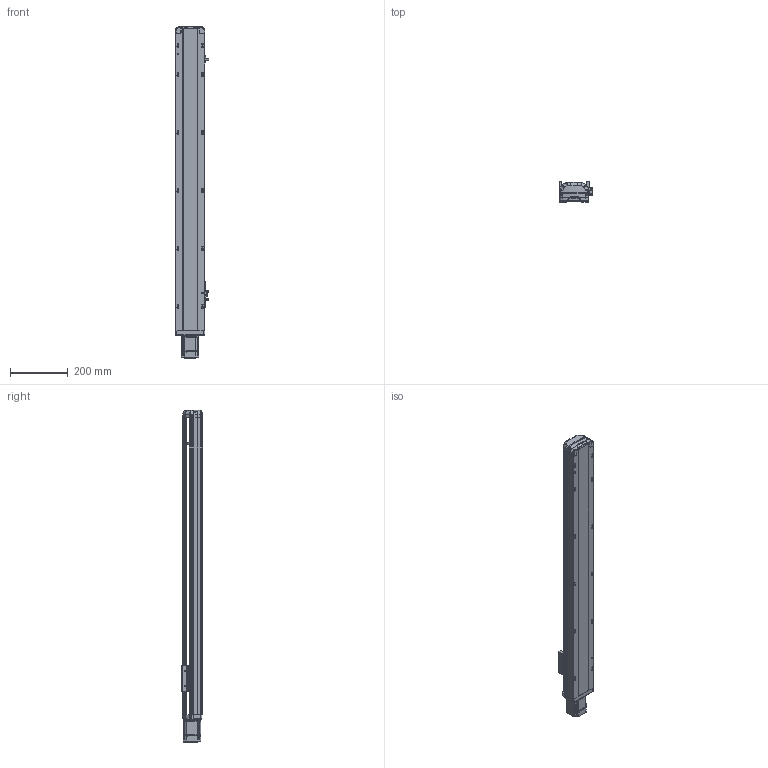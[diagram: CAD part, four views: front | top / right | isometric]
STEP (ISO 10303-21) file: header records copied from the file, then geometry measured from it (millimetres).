
FILE_DESCRIPTION (( 'STEP AP214' ), '1' );
FILE_NAME ('RTH10-XX-800-E-M20-C4.STEP', '2025-10-24T10:47:25', ( '' ), ( '' ), 'SwSTEP 2.0', 'SolidWorks 2018', '' );
FILE_SCHEMA (( 'AUTOMOTIVE_DESIGN' ));
Length unit declared in the file: millimetre
Products named in the file (9): N_RTH12-E-007P-奻裔^RTH10-XX-XX-E-M20-C4ㄗ源最宒ㄘ; N_200W-1^RTH10-XX-XX-E-M20-C4（方程式）; N_RTH13-L-012感应片外置^RTH10-XX-XX-E-M20-C4（方程式）; N_RTH12-E-011P-臏倰第菁釱^RTH10-XX-XX-E-M20-C4ㄗ源最宒ㄘ; N_RTH12-GY-001P^RTH10-XX-XX-E-M20-C4（方程式）; N_RTH12-GY-004-滑座^RTH10-XX-XX-E-M20-C4（方程式）; RTH10-XX-800-E-M20-C4; N_OMRON EE-SX672 換覜ん^RTH10-XX-XX-E-M20-C4ㄗ源最宒ㄘ; N_RTH12-E-008-M20电机板^RTH10-XX-XX-E-M20-C4（方程式）
Assembly tree (10 placements, depth 2):
  RTH10-XX-800-E-M20-C4
    N_RTH12-E-011P-臏倰第菁釱^RTH10-XX-XX-E-M20-C4ㄗ源最宒ㄘ
    N_RTH13-L-012感应片外置^RTH10-XX-XX-E-M20-C4（方程式）
    N_OMRON EE-SX672 換覜ん^RTH10-XX-XX-E-M20-C4ㄗ源最宒ㄘ  x3
    N_RTH12-E-007P-奻裔^RTH10-XX-XX-E-M20-C4ㄗ源最宒ㄘ
    N_RTH12-GY-001P^RTH10-XX-XX-E-M20-C4（方程式）
    N_RTH12-GY-004-滑座^RTH10-XX-XX-E-M20-C4（方程式）
    N_200W-1^RTH10-XX-XX-E-M20-C4（方程式）
    N_RTH12-E-008-M20电机板^RTH10-XX-XX-E-M20-C4（方程式）
Bounding box: 116.5 x 70 x 1145.31 mm (x, y, z)
Volume: 4351697.8 mm3; surface area: 674116.4 mm2
Topology: 9 solids, 11 shells, 2028 faces, 5650 edges, 3710 vertices
Faces by surface type: plane 1012, cylinder 509, bspline 472, cone 33, torus 2
Entity records: 61252 total; most frequent: CARTESIAN_POINT 23746, ORIENTED_EDGE 8380, DIRECTION 6546, EDGE_CURVE 4196, VERTEX_POINT 2754, VECTOR 2254, LINE 2254, AXIS2_PLACEMENT_3D 2146
